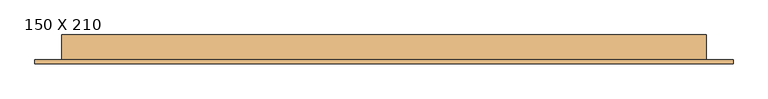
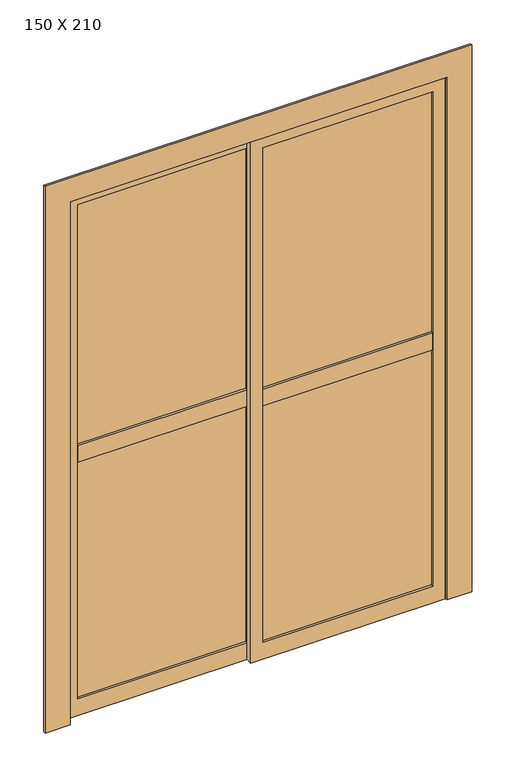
"""IFC4 building model written with IfcOpenShell, lengths in millimetres: door geometry, PORTA DE VIDRO COM ESQUADRIA DE CORRER - 2 FOLHAS : 150 X 210."""

from ifc_helpers import new_model, si_unit, frame, origin, place, context, project, spatial, polyline, outline, extrude, source, transform, mapped, element, save


def door_150_x_210_59f08e28(model_context):
    return source(origin(), model_context, "Body", "SweptSolid", [
        extrude(outline(polyline([(98.1608739, -48.0041286), (773.1608739, -48.0041286), (773.1608739, -73.0041286), (98.1608739, -73.0041286), (98.1608739, -48.0041286)])), frame((0.0, 0.0, 1065.0), z_axis=(0.0, 0.0, 1.0), x_axis=(1.0, 0.0, 0.0)), (0.0, 0.0, 1.0), 70.0),
        extrude(outline(polyline([(773.1608739, -57.5041286), (773.1608739, -63.5041286), (98.1608739, -63.5041286), (98.1608739, -57.5041286), (773.1608739, -57.5041286)])), frame((0.0, 0.0, 70.0), z_axis=(0.0, 0.0, 1.0), x_axis=(1.0, 0.0, 0.0)), (0.0, 0.0, 1.0), 2080.0),
        extrude(outline(polyline([(2200.0, 823.1608739), (2200.0, 48.1608739), (0.0, 48.1608739), (0.0, 823.1608739), (2200.0, 823.1608739)]), holes=[polyline([(2150.0, 773.1608739), (70.0, 773.1608739), (70.0, 98.1608739), (2150.0, 98.1608739), (2150.0, 773.1608739)])]), frame((0.0, -73.0041286, 0.0), z_axis=(0.0, 1.0, 0.0), x_axis=(0.0, 0.0, 1.0)), (0.0, 0.0, 1.0), 25.0),
        extrude(outline(polyline([(48.1608739, -48.0041286), (-626.8391261, -48.0041286), (-626.8391261, -23.0041286), (48.1608739, -23.0041286), (48.1608739, -48.0041286)])), frame((0.0, 0.0, 1065.0), z_axis=(0.0, 0.0, 1.0), x_axis=(1.0, 0.0, 0.0)), (0.0, 0.0, 1.0), 70.0),
        extrude(outline(polyline([(-626.8391261, -38.5041286), (-626.8391261, -32.5041286), (48.1608739, -32.5041286), (48.1608739, -38.5041286), (-626.8391261, -38.5041286)])), frame((0.0, 0.0, 70.0), z_axis=(0.0, 0.0, 1.0), x_axis=(1.0, 0.0, 0.0)), (0.0, 0.0, 1.0), 2080.0),
        extrude(outline(polyline([(2200.0, -676.8391261), (0.0, -676.8391261), (0.0, 98.1608739), (2200.0, 98.1608739), (2200.0, -676.8391261)]), holes=[polyline([(2150.0, -626.8391261), (2150.0, 48.1608739), (70.0, 48.1608739), (70.0, -626.8391261), (2150.0, -626.8391261)])]), frame((0.0, -48.0041286, 0.0), z_axis=(0.0, 1.0, 0.0), x_axis=(0.0, 0.0, 1.0)), (0.0, 0.0, 1.0), 25.0),
        extrude(outline(polyline([(2235.0, -711.8391261), (0.0, -711.8391261), (0.0, -676.8391261), (2200.0, -676.8391261), (2200.0, 823.1608739), (0.0, 823.1608739), (0.0, 858.1608739), (2235.0, 858.1608739), (2235.0, -711.8391261)])), frame((0.0, -73.0041286, 0.0), z_axis=(0.0, 1.0, 0.0), x_axis=(0.0, 0.0, 1.0)), (0.0, 0.0, 1.0), 60.0),
        extrude(outline(polyline([(2200.0, -676.8391261), (2200.0, 823.1608739), (0.0, 823.1608739), (0.0, 923.1608739), (2300.0, 923.1608739), (2300.0, -776.8391261), (0.0, -776.8391261), (0.0, -676.8391261), (2200.0, -676.8391261)])), frame((0.0, -83.0041286, 0.0), z_axis=(0.0, 1.0, 0.0), x_axis=(0.0, 0.0, 1.0)), (0.0, 0.0, 1.0), 10.0),
    ])


if __name__ == "__main__":
    model = new_model("IFC4")
    model_context = context("Model", 3, world=origin())
    ifc_project = project(units=[si_unit("LENGTHUNIT", "METRE", prefix="MILLI")], contexts=[model_context])
    site = spatial("IfcSite", under=ifc_project)
    building = spatial("IfcBuilding", under=site)
    placement = place(None, origin())
    door_150_x_210_shape = door_150_x_210_59f08e28(model_context)
    element("IfcDoor", 1, ObjectType="PORTA DE VIDRO COM ESQUADRIA DE CORRER - 2 FOLHAS : 150 X 210", at=placement, inside=building, context=model_context, shape_type="MappedRepresentation", body=[
        mapped(door_150_x_210_shape, transform((0.0, 0.0, 0.0), x_axis=(1.0, 0.0, 0.0), y_axis=(0.0, 1.0, 0.0), z_axis=(0.0, 0.0, 1.0))),
    ])
    save(model, "model.ifc")
